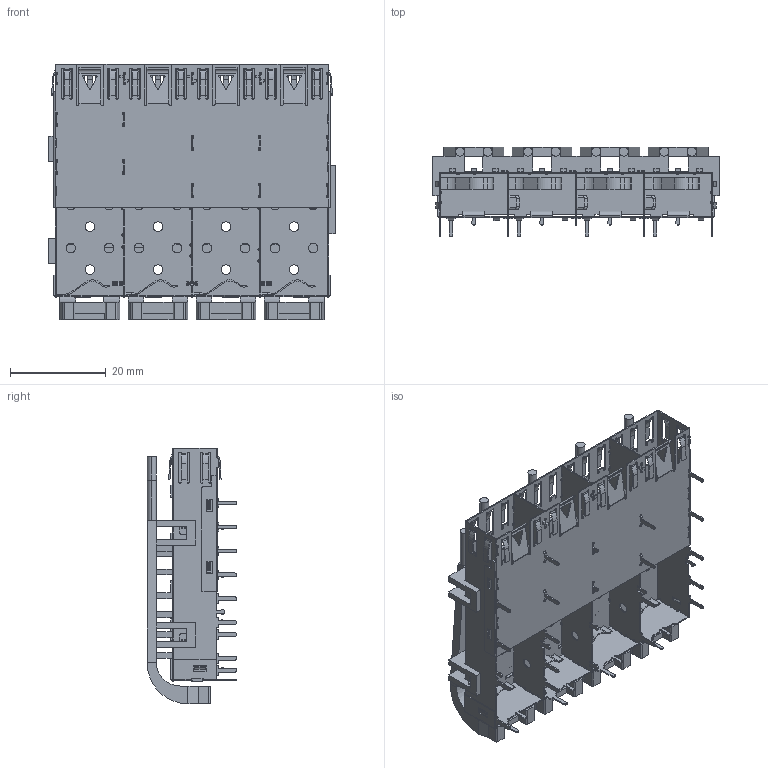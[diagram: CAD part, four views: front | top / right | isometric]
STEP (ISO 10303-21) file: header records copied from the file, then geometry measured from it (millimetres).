
FILE_DESCRIPTION((''),'2;1');
FILE_NAME('KEHU--3D','2014-01-20T',('Administrator'),(''),'PRO/ENGINEER BY PARAMETRIC TECHNOLOGY CORPORATION, 2009360','PRO/ENGINEER BY PARAMETRIC TECHNOLOGY CORPORATION, 2009360','');
FILE_SCHEMA(('CONFIG_CONTROL_DESIGN'));
Products named in the file (1): KEHU--3D
Bounding box: 60 x 18.73 x 53.5 mm (x, y, z)
Volume: 5488.3 mm3; surface area: 21573.6 mm2
Topology: 1 solids, 1 shells, 3207 faces, 8985 edges, 5572 vertices
Faces by surface type: plane 1908, cylinder 1268, bspline 31
Entity records: 104572 total; most frequent: CARTESIAN_POINT 19758, ORIENTED_EDGE 17970, DIRECTION 17803, EDGE_CURVE 8985, VECTOR 6291, LINE 6291, AXIS2_PLACEMENT_3D 5756, VERTEX_POINT 5572
